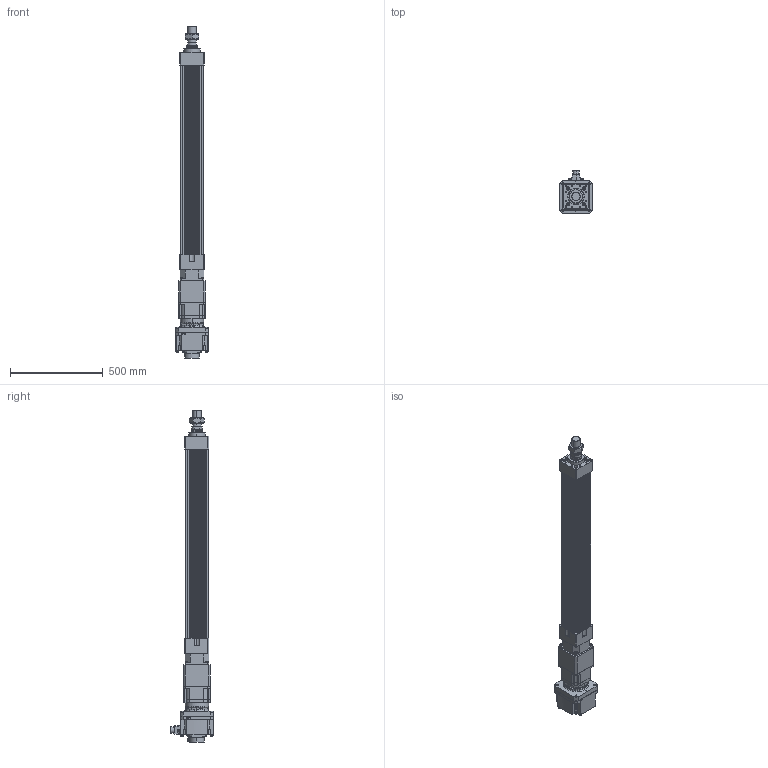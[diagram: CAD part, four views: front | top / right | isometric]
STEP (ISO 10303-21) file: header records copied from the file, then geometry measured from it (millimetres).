
FILE_DESCRIPTION (( 'STEP AP203' ), '1' );
FILE_NAME ('HES130FS(HS)-S800-W020G00-M.STEP', '2023-01-30T12:10:21', ( 'tms' ), ( '' ), 'SwSTEP 2.0', 'SolidWorks 2013', '' );
FILE_SCHEMA (( 'CONFIG_CONTROL_DESIGN' ));
Length unit declared in the file: millimetre
Products named in the file (9): HES130-S800-G142; AB142-003[HG-SR352]; AB1421; P1301500001; M45X1.5P; HES130FS(HS)-S800-W020G00-M; HES130 ROD M ST800; HG-SR202; P0403500801
Assembly tree (8 placements, depth 3):
  HES130FS(HS)-S800-W020G00-M
    HES130-S800-G142
    HES130 ROD M ST800
    M45X1.5P
    AB142-003[HG-SR352]
      AB1421
      P1301500001
      P0403500801
    HG-SR202
Bounding box: 176 x 228.85 x 1787.5 mm (x, y, z)
Volume: 15353974.4 mm3; surface area: 2046943.5 mm2
Topology: 4 solids, 22 shells, 1527 faces, 3928 edges, 2530 vertices
Faces by surface type: cylinder 683, plane 580, cone 182, bspline 76, torus 6
Entity records: 55214 total; most frequent: CARTESIAN_POINT 16756, DIRECTION 8052, ORIENTED_EDGE 7718, EDGE_CURVE 3881, AXIS2_PLACEMENT_3D 3043, VERTEX_POINT 2530, LINE 1966, VECTOR 1966
